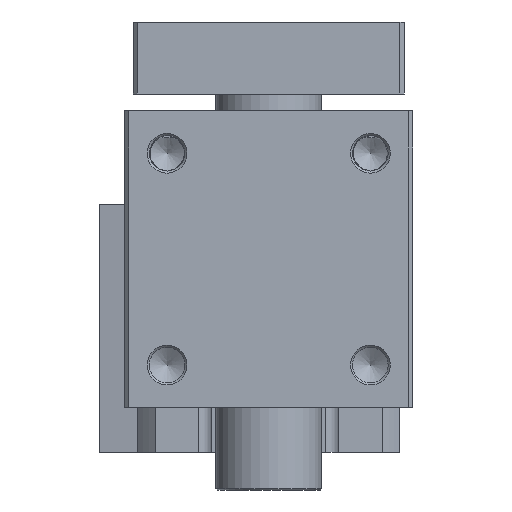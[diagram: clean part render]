
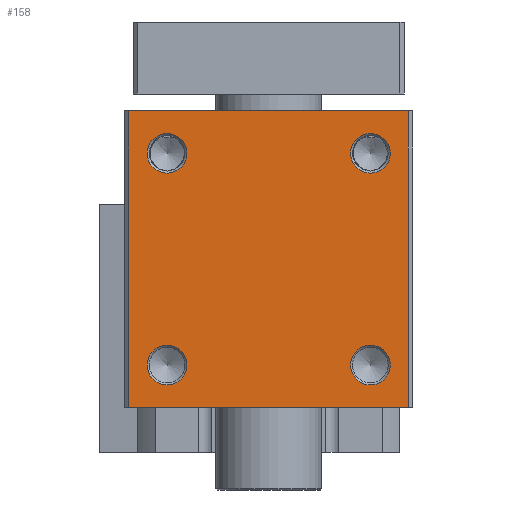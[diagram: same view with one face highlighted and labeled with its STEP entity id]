
A CAD part, left-side view. The second image highlights one B-rep face of the part: STEP entity #158.
In plain terms, the highlighted planar face has unit normal (-1, 0, 0).
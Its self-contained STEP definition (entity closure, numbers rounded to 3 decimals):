
#51=CARTESIAN_POINT('',(-85.057,34.794,10.6));
#52=VERTEX_POINT('',#51);
#59=CARTESIAN_POINT('',(-85.057,34.794,80.6));
#60=VERTEX_POINT('',#59);
#61=CARTESIAN_POINT('',(-85.057,34.794,10.6));
#62=DIRECTION('',(0.0,0.0,1.0));
#63=VECTOR('',#62,70.0);
#64=LINE('',#61,#63);
#65=EDGE_CURVE('',#52,#60,#64,.T.);
#84=CARTESIAN_POINT('',(-85.057,1.794,10.6));
#85=DIRECTION('',(-1.0,0.0,0.0));
#86=DIRECTION('',(0.0,0.0,1.0));
#87=AXIS2_PLACEMENT_3D('',#84,#85,#86);
#88=PLANE('',#87);
#89=ORIENTED_EDGE('',*,*,#65,.F.);
#90=CARTESIAN_POINT('',(-85.057,-31.206,10.6));
#91=VERTEX_POINT('',#90);
#92=CARTESIAN_POINT('',(-85.057,34.794,10.6));
#93=DIRECTION('',(0.0,-1.0,0.0));
#94=VECTOR('',#93,66.0);
#95=LINE('',#92,#94);
#96=EDGE_CURVE('',#52,#91,#95,.T.);
#97=ORIENTED_EDGE('',*,*,#96,.T.);
#98=CARTESIAN_POINT('',(-85.057,-31.206,80.6));
#99=VERTEX_POINT('',#98);
#100=CARTESIAN_POINT('',(-85.057,-31.206,80.6));
#101=DIRECTION('',(0.0,0.0,-1.0));
#102=VECTOR('',#101,70.0);
#103=LINE('',#100,#102);
#104=EDGE_CURVE('',#99,#91,#103,.T.);
#105=ORIENTED_EDGE('',*,*,#104,.F.);
#106=CARTESIAN_POINT('',(-85.057,34.794,80.6));
#107=DIRECTION('',(0.0,-1.0,0.0));
#108=VECTOR('',#107,66.0);
#109=LINE('',#106,#108);
#110=EDGE_CURVE('',#60,#99,#109,.T.);
#111=ORIENTED_EDGE('',*,*,#110,.F.);
#112=EDGE_LOOP('',(#89,#97,#105,#111));
#113=FACE_OUTER_BOUND('',#112,.T.);
#114=CARTESIAN_POINT('',(-85.057,25.794,75.288));
#115=VERTEX_POINT('',#114);
#116=CARTESIAN_POINT('',(-85.057,25.794,70.6));
#117=DIRECTION('',(-1.0,0.0,0.0));
#118=DIRECTION('',(0.0,0.0,-1.0));
#119=AXIS2_PLACEMENT_3D('',#116,#117,#118);
#120=CIRCLE('',#119,4.688);
#121=EDGE_CURVE('',#115,#115,#120,.T.);
#122=ORIENTED_EDGE('',*,*,#121,.F.);
#123=EDGE_LOOP('',(#122));
#124=FACE_BOUND('',#123,.T.);
#125=CARTESIAN_POINT('',(-85.057,25.794,25.288));
#126=VERTEX_POINT('',#125);
#127=CARTESIAN_POINT('',(-85.057,25.794,20.6));
#128=DIRECTION('',(-1.0,0.0,0.0));
#129=DIRECTION('',(0.0,0.0,-1.0));
#130=AXIS2_PLACEMENT_3D('',#127,#128,#129);
#131=CIRCLE('',#130,4.688);
#132=EDGE_CURVE('',#126,#126,#131,.T.);
#133=ORIENTED_EDGE('',*,*,#132,.F.);
#134=EDGE_LOOP('',(#133));
#135=FACE_BOUND('',#134,.T.);
#136=CARTESIAN_POINT('',(-85.057,-22.206,75.288));
#137=VERTEX_POINT('',#136);
#138=CARTESIAN_POINT('',(-85.057,-22.206,70.6));
#139=DIRECTION('',(-1.0,0.0,0.0));
#140=DIRECTION('',(0.0,0.0,-1.0));
#141=AXIS2_PLACEMENT_3D('',#138,#139,#140);
#142=CIRCLE('',#141,4.688);
#143=EDGE_CURVE('',#137,#137,#142,.T.);
#144=ORIENTED_EDGE('',*,*,#143,.F.);
#145=EDGE_LOOP('',(#144));
#146=FACE_BOUND('',#145,.T.);
#147=CARTESIAN_POINT('',(-85.057,-22.206,25.288));
#148=VERTEX_POINT('',#147);
#149=CARTESIAN_POINT('',(-85.057,-22.206,20.6));
#150=DIRECTION('',(-1.0,0.0,0.0));
#151=DIRECTION('',(0.0,0.0,-1.0));
#152=AXIS2_PLACEMENT_3D('',#149,#150,#151);
#153=CIRCLE('',#152,4.688);
#154=EDGE_CURVE('',#148,#148,#153,.T.);
#155=ORIENTED_EDGE('',*,*,#154,.F.);
#156=EDGE_LOOP('',(#155));
#157=FACE_BOUND('',#156,.T.);
#158=ADVANCED_FACE('',(#113,#124,#135,#146,#157),#88,.T.);
